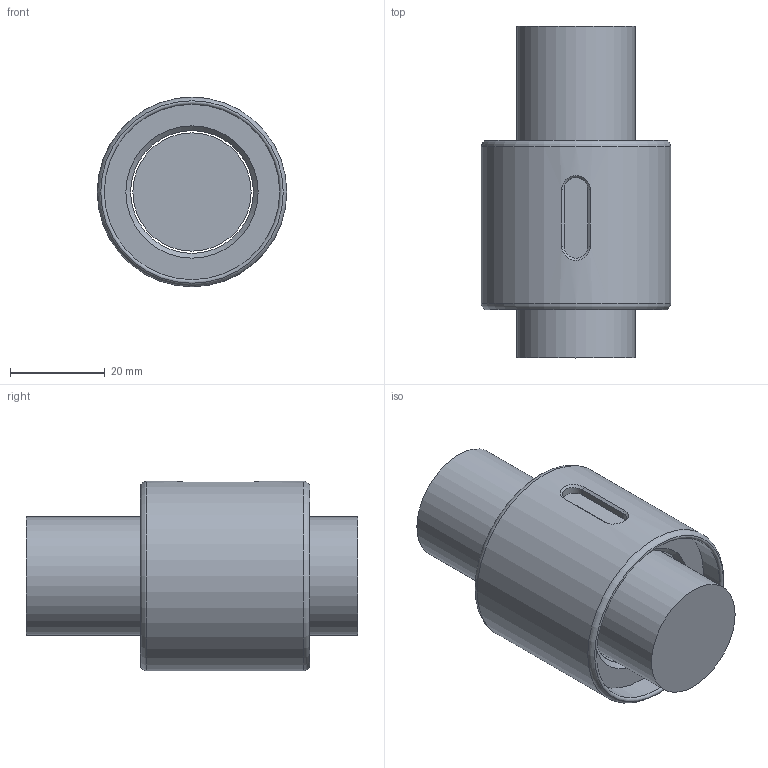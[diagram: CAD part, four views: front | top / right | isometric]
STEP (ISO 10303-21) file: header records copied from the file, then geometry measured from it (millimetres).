
FILE_DESCRIPTION(/* description */ (''),/* implementation_level */ '2;1');
FILE_NAME(/* name */ '2505.prt.step',/* time_stamp */ '2008-12-05T16:34:11+08:00',/* author */ (''),/* organization */ (''),/* preprocessor_version */ 'ST-DEVELOPER v11',/* originating_system */ 'SIEMENS UGS NX 6.0',/* authorisation */ '');
FILE_SCHEMA (('AUTOMOTIVE_DESIGN { 1 0 10303 214 1 1 1 1 }'));
Length unit declared in the file: millimetre
Products named in the file (1): 2505
Bounding box: 40 x 70 x 40 mm (x, y, z)
Volume: 54075.1 mm3; surface area: 15479.2 mm2
Topology: 2 solids, 2 shells, 24 faces, 49 edges, 30 vertices
Faces by surface type: plane 9, cylinder 7, torus 4, cone 2, bspline 2
Full cylindrical faces by diameter (mm): 24.95 x1, 25.9 x1, 37 x2, 40 x1
Entity records: 649 total; most frequent: CARTESIAN_POINT 190, DIRECTION 87, ORIENTED_EDGE 68, AXIS2_PLACEMENT_3D 39, EDGE_LOOP 38, EDGE_CURVE 34, FACE_BOUND 27, VERTEX_POINT 26
